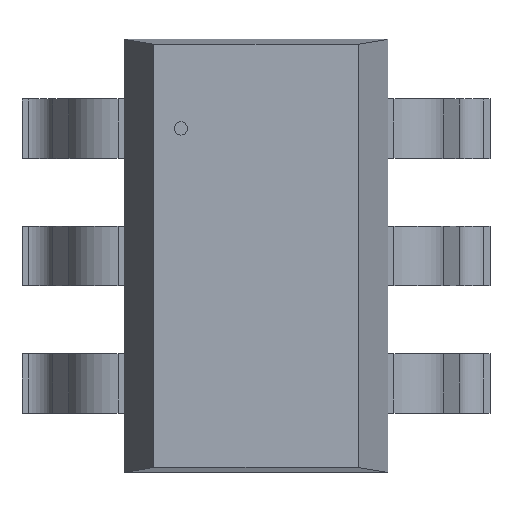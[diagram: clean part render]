
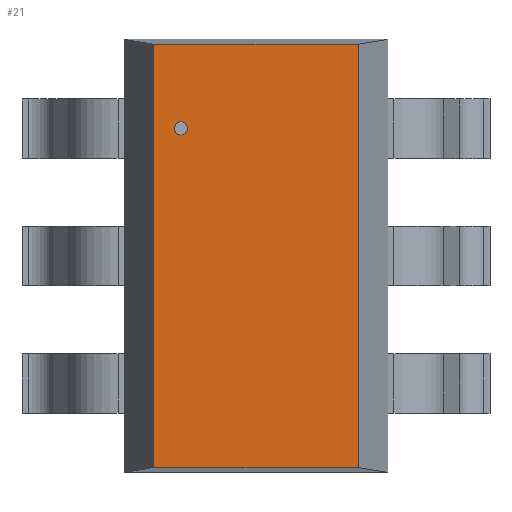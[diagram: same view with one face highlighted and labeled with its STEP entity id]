
A CAD part, top view. The second image highlights one B-rep face of the part: STEP entity #21.
In plain terms, the highlighted planar face has unit normal (0, 0, 1).
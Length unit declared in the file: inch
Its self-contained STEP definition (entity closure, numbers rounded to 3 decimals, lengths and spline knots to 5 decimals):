
#19 = B_SPLINE_CURVE_WITH_KNOTS ( 'NONE', 3,
 ( #2658, #2409, #1098, #2150 ),
 .UNSPECIFIED., .F., .F.,
 ( 4, 4 ),
 ( 0., 1. ),
 .UNSPECIFIED. ) ;
#21 = ADVANCED_FACE ( 'NONE', ( #670 ), #2383, .T. ) ;
#281 = B_SPLINE_CURVE_WITH_KNOTS ( 'NONE', 3,
 ( #2127, #1625, #2505, #2242 ),
 .UNSPECIFIED., .F., .F.,
 ( 4, 4 ),
 ( 0., 1. ),
 .UNSPECIFIED. ) ;
#354 = EDGE_CURVE ( 'NONE', #2349, #2231, #410, .T. ) ;
#363 = EDGE_CURVE ( 'NONE', #2231, #2326, #19, .T. ) ;
#410 = B_SPLINE_CURVE_WITH_KNOTS ( 'NONE', 3,
 ( #1359, #2392, #869, #902 ),
 .UNSPECIFIED., .F., .F.,
 ( 4, 4 ),
 ( 0., 1. ),
 .UNSPECIFIED. ) ;
#441 = ORIENTED_EDGE ( 'NONE', *, *, #354, .F. ) ;
#670 = FACE_OUTER_BOUND ( 'NONE', #888, .T. ) ;
#713 = EDGE_CURVE ( 'NONE', #1988, #2349, #281, .T. ) ;
#759 = AXIS2_PLACEMENT_3D ( 'NONE', #3139, #1692, #1938 ) ;
#789 = B_SPLINE_CURVE_WITH_KNOTS ( 'NONE', 3,
 ( #1881, #2607, #1599, #1632 ),
 .UNSPECIFIED., .F., .F.,
 ( 4, 4 ),
 ( 0., 1. ),
 .UNSPECIFIED. ) ;
#869 = CARTESIAN_POINT ( 'NONE',  ( -0.0205, 0.01418, 0.04299 ) ) ;
#888 = EDGE_LOOP ( 'NONE', ( #1610, #1247, #1826, #441 ) ) ;
#902 = CARTESIAN_POINT ( 'NONE',  ( -0.02051, 0.04252, 0.04299 ) ) ;
#1098 = CARTESIAN_POINT ( 'NONE',  ( 0.00684, 0.0425, 0.04299 ) ) ;
#1247 = ORIENTED_EDGE ( 'NONE', *, *, #1766, .F. ) ;
#1359 = CARTESIAN_POINT ( 'NONE',  ( -0.02051, -0.04251, 0.04299 ) ) ;
#1599 = CARTESIAN_POINT ( 'NONE',  ( 0.0205, -0.01417, 0.04299 ) ) ;
#1610 = ORIENTED_EDGE ( 'NONE', *, *, #713, .F. ) ;
#1625 = CARTESIAN_POINT ( 'NONE',  ( 0.00684, -0.0425, 0.04299 ) ) ;
#1632 = CARTESIAN_POINT ( 'NONE',  ( 0.02051, -0.04252, 0.04299 ) ) ;
#1692 = DIRECTION ( 'NONE',  ( 0., 0., 1. ) ) ;
#1723 = CARTESIAN_POINT ( 'NONE',  ( -0.02051, -0.04251, 0.04299 ) ) ;
#1766 = EDGE_CURVE ( 'NONE', #2326, #1988, #789, .T. ) ;
#1826 = ORIENTED_EDGE ( 'NONE', *, *, #363, .F. ) ;
#1881 = CARTESIAN_POINT ( 'NONE',  ( 0.02051, 0.04252, 0.04299 ) ) ;
#1938 = DIRECTION ( 'NONE',  ( 1., 0., 0. ) ) ;
#1988 = VERTEX_POINT ( 'NONE', #2756 ) ;
#2127 = CARTESIAN_POINT ( 'NONE',  ( 0.02051, -0.04252, 0.04299 ) ) ;
#2150 = CARTESIAN_POINT ( 'NONE',  ( 0.02051, 0.04252, 0.04299 ) ) ;
#2231 = VERTEX_POINT ( 'NONE', #2450 ) ;
#2242 = CARTESIAN_POINT ( 'NONE',  ( -0.02051, -0.04251, 0.04299 ) ) ;
#2326 = VERTEX_POINT ( 'NONE', #3242 ) ;
#2349 = VERTEX_POINT ( 'NONE', #1723 ) ;
#2383 = PLANE ( 'NONE',  #759 ) ;
#2392 = CARTESIAN_POINT ( 'NONE',  ( -0.0205, -0.01417, 0.04299 ) ) ;
#2409 = CARTESIAN_POINT ( 'NONE',  ( -0.00684, 0.0425, 0.04299 ) ) ;
#2450 = CARTESIAN_POINT ( 'NONE',  ( -0.02051, 0.04252, 0.04299 ) ) ;
#2505 = CARTESIAN_POINT ( 'NONE',  ( -0.00683, -0.0425, 0.04299 ) ) ;
#2607 = CARTESIAN_POINT ( 'NONE',  ( 0.0205, 0.01417, 0.04299 ) ) ;
#2658 = CARTESIAN_POINT ( 'NONE',  ( -0.02051, 0.04252, 0.04299 ) ) ;
#2756 = CARTESIAN_POINT ( 'NONE',  ( 0.02051, -0.04252, 0.04299 ) ) ;
#3139 = CARTESIAN_POINT ( 'NONE',  ( -0.02051, -0.04252, 0.04299 ) ) ;
#3242 = CARTESIAN_POINT ( 'NONE',  ( 0.02051, 0.04252, 0.04299 ) ) ;
